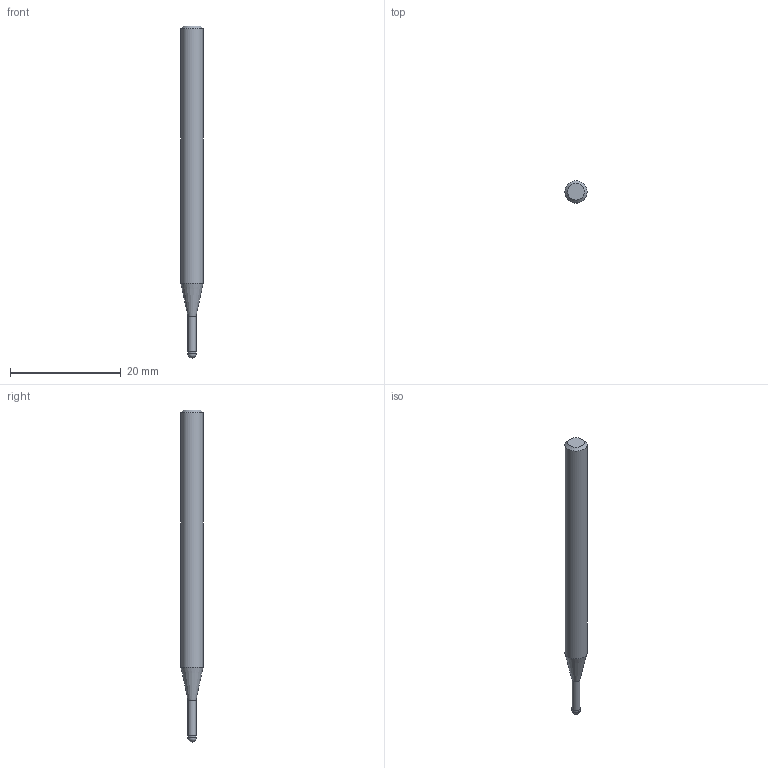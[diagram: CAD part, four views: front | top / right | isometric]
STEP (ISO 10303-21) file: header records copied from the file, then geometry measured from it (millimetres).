
FILE_DESCRIPTION((''),'2;1');
FILE_NAME('C:\Users\nsx150\AppData\Local\Temp\Mastercam 2021\EUJSUNXURU\TEMP.step','2021-04-22T10:22:46',(''),(''),'STEP Write','Mastercam 2021 ... CNC Software, Inc.','');
FILE_SCHEMA(('AUTOMOTIVE_DESIGN'));
Length unit declared in the file: millimetre
Products named in the file (1): None
Bounding box: 4 x 4 x 60 mm (x, y, z)
Volume: 632.5 mm3; surface area: 683.2 mm2
Topology: 2 solids, 2 shells, 9 faces, 14 edges, 8 vertices
Faces by surface type: plane 3, cylinder 3, cone 2, sphere 1
Full cylindrical faces by diameter (mm): 1.45 x1, 1.5 x1, 4 x1
Entity records: 211 total; most frequent: DIRECTION 36, CARTESIAN_POINT 25, AXIS2_PLACEMENT_3D 18, ORIENTED_EDGE 14, EDGE_LOOP 14, STYLED_ITEM 12, ADVANCED_FACE 9, FACE_BOUND 8
